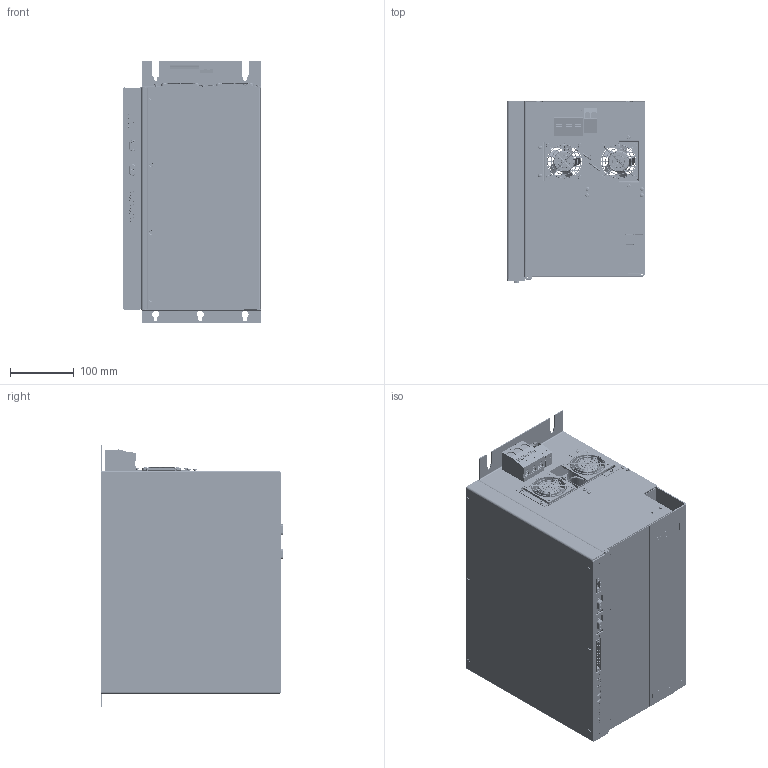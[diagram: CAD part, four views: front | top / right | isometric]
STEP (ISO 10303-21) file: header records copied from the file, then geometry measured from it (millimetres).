
FILE_DESCRIPTION((''),'2;1');
FILE_NAME('IR-24','2020-01-08T11:11:43',('paolo.garatti'),('GEFRAN S.p.A via Carducci,24 21040 Gerenzano (VA)'),'CREO PARAMETRIC BY PTC INC, 2018300','CREO PARAMETRIC BY PTC INC, 2018300','');
FILE_SCHEMA(('AUTOMOTIVE_DESIGN { 1 0 10303 214 1 1 1 1 }'));
Products named in the file (30): 49261; 49267; 49269; 49262_IR-24; 49265; 49259; CHC_M3_6; ANTA_FRONTALE; 49264; 49263; PRESA_SERIALE; 1899692; ROTARY; DIN965A_M3X6; GRIGLIA_VENTOLA_60X60; RIVETTO; BCZ_3_81_4_270F_SN_OR_194048000; CAVOSX; ASSY_FUN; SC_3_81_04_270F_3_2_SN_OR_10380; HDFK95; HDFK; 48004_VITE_DIN7985; SCHEDA_ALIM; 1804742; 1828304; PORTAFUS05808_LEGRAND_PF-10X38; 1806229; ASSIEME_CPU_IR-24; IR-24
Assembly tree (85 placements, depth 3):
  IR-24
    49261
    49267
    49269
    49262_IR-24
    ANTA_FRONTALE
      49265
      49259
      CHC_M3_6
    49264
    49263
    PRESA_SERIALE  x2
    1899692
    ROTARY  x2
    DIN965A_M3X6  x8
    ASSY_FUN
      GRIGLIA_VENTOLA_60X60  x2
      RIVETTO  x8
      BCZ_3_81_4_270F_SN_OR_194048000
      CAVOSX  x2
    SC_3_81_04_270F_3_2_SN_OR_10380
    HDFK95  x3
    HDFK  x2
    48004_VITE_DIN7985  x8
    SCHEDA_ALIM
    1804742  x3
    1828304  x3
    PORTAFUS05808_LEGRAND_PF-10X38  x24
    ASSIEME_CPU_IR-24
      1806229
      1899692
Bounding box: 214.5 x 286 x 410 mm (x, y, z)
Volume: 1886637.4 mm3; surface area: 1724864.9 mm2
Topology: 124 solids, 130 shells, 10430 faces, 26816 edges, 17386 vertices
Faces by surface type: plane 7515, cylinder 1990, bspline 320, sphere 202, torus 188, cone 176, extrusion 39
Entity records: 205135 total; most frequent: CARTESIAN_POINT 36163, ORIENTED_EDGE 25740, DIRECTION 24633, EDGE_CURVE 12870, PRESENTATION_STYLE_ASSIGNMENT 10498, STYLED_ITEM 10191, VECTOR 9861, LINE 9822
